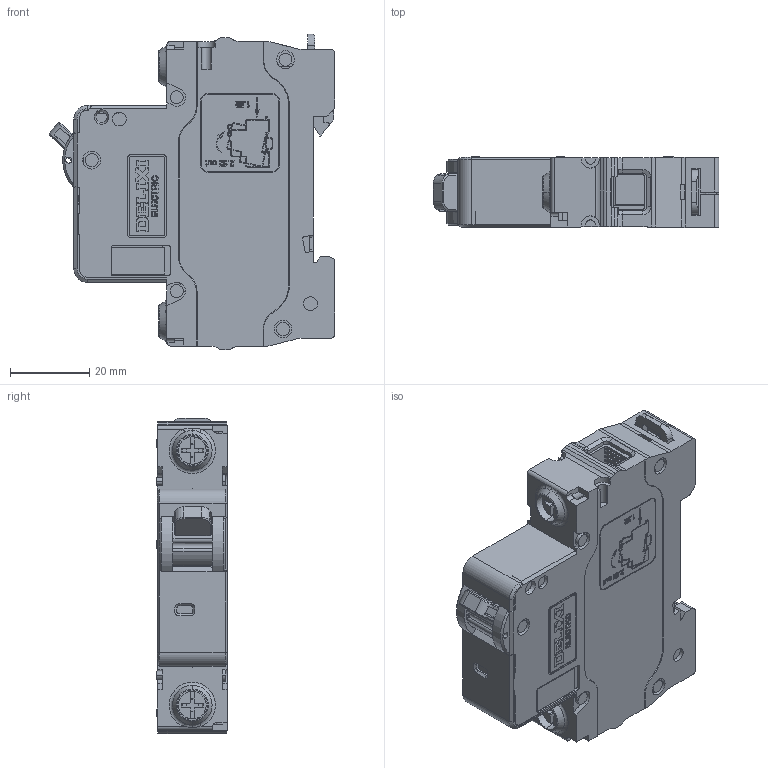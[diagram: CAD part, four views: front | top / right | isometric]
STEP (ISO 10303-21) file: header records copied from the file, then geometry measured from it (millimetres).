
FILE_DESCRIPTION((''),'2;1');
FILE_NAME('2255012600_2_ASM_SW0001','2019-08-01T',('xiao.wang'),(''),'PRO/ENGINEER BY PARAMETRIC TECHNOLOGY CORPORATION, 2015440','PRO/ENGINEER BY PARAMETRIC TECHNOLOGY CORPORATION, 2015440','');
FILE_SCHEMA(('CONFIG_CONTROL_DESIGN'));
Products named in the file (1): 2255012600_2_ASM_SW0001
Bounding box: 72.26 x 17.85 x 79.9 mm (x, y, z)
Volume: 65749.3 mm3; surface area: 24560.7 mm2
Topology: 2 solids, 2 shells, 2988 faces, 8309 edges, 5486 vertices
Faces by surface type: plane 2055, cylinder 515, extrusion 269, cone 102, torus 34, bspline 10, sphere 3
Entity records: 97831 total; most frequent: CARTESIAN_POINT 21488, ORIENTED_EDGE 16596, DIRECTION 14489, EDGE_CURVE 8298, VECTOR 6515, LINE 6246, VERTEX_POINT 5486, AXIS2_PLACEMENT_3D 3987
